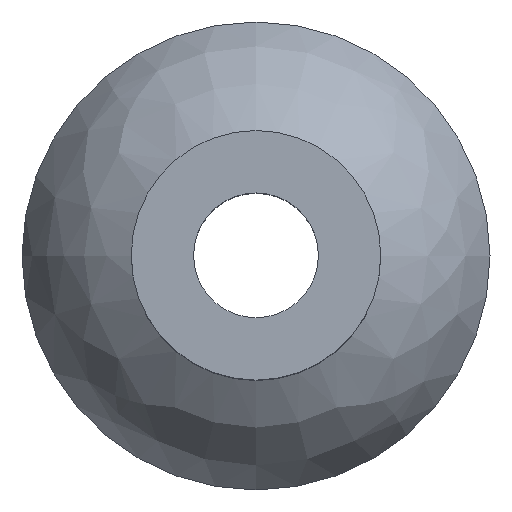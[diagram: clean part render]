
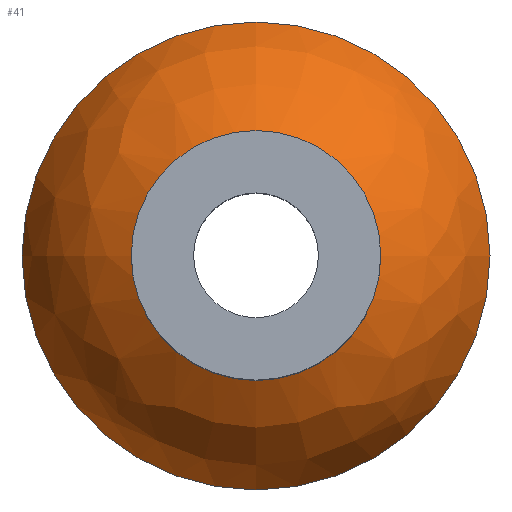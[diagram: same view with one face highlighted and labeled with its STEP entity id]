
A CAD part, top view. The second image highlights one B-rep face of the part: STEP entity #41.
In plain terms, the highlighted free-form (B-spline) face has degree [3, 3] with [4, 7] control points.
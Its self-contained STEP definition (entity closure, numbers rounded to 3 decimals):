
#41=ADVANCED_FACE('',(#82,#83),#84,.T.);
#82=FACE_OUTER_BOUND('',#117,.T.);
#83=FACE_OUTER_BOUND('',#118,.T.);
#84=(B_SPLINE_SURFACE(3,3,((#120,#121,#122,#123,#124,#125,#126),(#127,#128,#129,#130,#131,#132,#133),(#134,#135,#136,#137,#138,#139,#140),(#141,#142,#143,#144,#145,#146,#147)),.UNSPECIFIED.,.F.,.T.,.F.)B_SPLINE_SURFACE_WITH_KNOTS((4,4),(4,3,4),(0.0,6.283),(-1.122,-0.719,-0.315),.UNSPECIFIED.)RATIONAL_B_SPLINE_SURFACE(((1.0,0.333,0.333,1.0,0.333,0.333,1.0),(0.946,0.315,0.315,0.946,0.315,0.315,0.946),(0.946,0.315,0.315,0.946,0.315,0.315,0.946),(1.0,0.333,0.333,1.0,0.333,0.333,1.0)))BOUNDED_SURFACE()REPRESENTATION_ITEM('')GEOMETRIC_REPRESENTATION_ITEM()SURFACE());
#117=EDGE_LOOP('',(#190));
#118=EDGE_LOOP('',(#191));
#120=CARTESIAN_POINT('',(-7.5,0.0,-4.));
#121=CARTESIAN_POINT('',(-7.5,15.0,-4.));
#122=CARTESIAN_POINT('',(7.5,15.0,-4.));
#123=CARTESIAN_POINT('',(7.5,0.0,-4.));
#124=CARTESIAN_POINT('',(7.5,-15.0,-4.));
#125=CARTESIAN_POINT('',(-7.5,-15.0,-4.));
#126=CARTESIAN_POINT('',(-7.5,0.0,-4.));
#127=CARTESIAN_POINT('',(-6.92,0.0,-2.22));
#128=CARTESIAN_POINT('',(-6.92,13.839,-2.22));
#129=CARTESIAN_POINT('',(6.92,13.839,-2.22));
#130=CARTESIAN_POINT('',(6.92,0.0,-2.22));
#131=CARTESIAN_POINT('',(6.92,-13.839,-2.22));
#132=CARTESIAN_POINT('',(-6.92,-13.839,-2.22));
#133=CARTESIAN_POINT('',(-6.92,0.0,-2.22));
#134=CARTESIAN_POINT('',(-5.687,0.0,-0.811));
#135=CARTESIAN_POINT('',(-5.687,11.374,-0.811));
#136=CARTESIAN_POINT('',(5.687,11.374,-0.811));
#137=CARTESIAN_POINT('',(5.687,0.0,-0.811));
#138=CARTESIAN_POINT('',(5.687,-11.374,-0.811));
#139=CARTESIAN_POINT('',(-5.687,-11.374,-0.811));
#140=CARTESIAN_POINT('',(-5.687,0.0,-0.811));
#141=CARTESIAN_POINT('',(-4.0,0.0,0.));
#142=CARTESIAN_POINT('',(-4.0,8.0,0.));
#143=CARTESIAN_POINT('',(4.0,8.0,0.));
#144=CARTESIAN_POINT('',(4.0,0.0,0.));
#145=CARTESIAN_POINT('',(4.0,-8.0,0.));
#146=CARTESIAN_POINT('',(-4.0,-8.0,0.));
#147=CARTESIAN_POINT('',(-4.0,0.0,0.));
#190=ORIENTED_EDGE('',*,*,#199,.F.);
#191=ORIENTED_EDGE('',*,*,#207,.T.);
#199=EDGE_CURVE('',#213,#213,#214,.T.);
#207=EDGE_CURVE('',#226,#226,#227,.T.);
#213=VERTEX_POINT('',#234);
#214=CIRCLE('',#235,7.5);
#226=VERTEX_POINT('',#247);
#227=CIRCLE('',#248,4.0);
#234=CARTESIAN_POINT('',(-7.5,0.0,-4.0));
#235=AXIS2_PLACEMENT_3D('',#254,#255,#256);
#247=CARTESIAN_POINT('',(-4.0,0.0,0.));
#248=AXIS2_PLACEMENT_3D('',#269,#270,#271);
#254=CARTESIAN_POINT('',(0.0,0.0,-4.0));
#255=DIRECTION('',(0.0,0.0,-1.0));
#256=DIRECTION('',(-1.0,0.0,0.0));
#269=CARTESIAN_POINT('',(0.0,0.0,0.));
#270=DIRECTION('',(0.0,0.0,-1.0));
#271=DIRECTION('',(-1.0,0.0,0.0));
